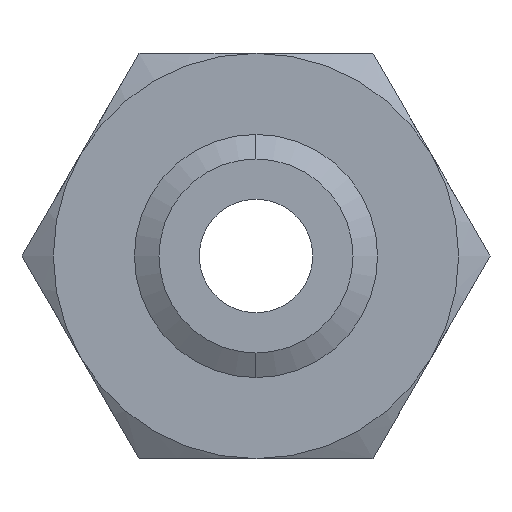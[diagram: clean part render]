
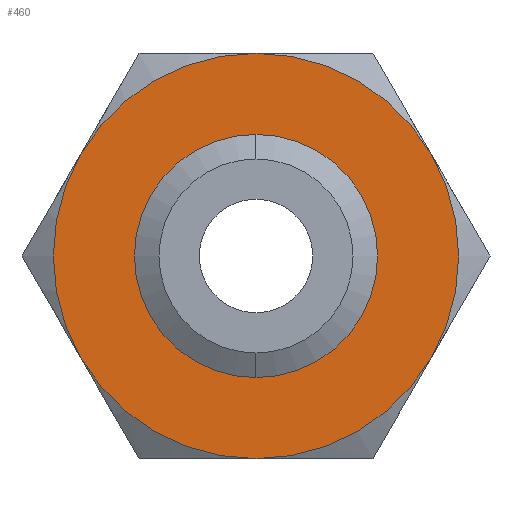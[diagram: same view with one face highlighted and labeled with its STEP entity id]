
A CAD part, front view. The second image highlights one B-rep face of the part: STEP entity #460.
In plain terms, the highlighted planar face has unit normal (0, -1, 0).
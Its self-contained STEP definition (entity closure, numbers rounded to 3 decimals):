
#247 = VERTEX_POINT ( 'NONE', #902 ) ;
#248 = ORIENTED_EDGE ( 'NONE', *, *, #260, .F. ) ;
#249 = EDGE_CURVE ( 'NONE', #247, #448, #900, .T. ) ;
#251 = ORIENTED_EDGE ( 'NONE', *, *, #254, .F. ) ;
#254 = EDGE_CURVE ( 'NONE', #2073, #2076, #955, .T. ) ;
#259 = EDGE_LOOP ( 'NONE', ( #262, #251 ) ) ;
#260 = EDGE_CURVE ( 'NONE', #414, #247, #939, .T. ) ;
#262 = ORIENTED_EDGE ( 'NONE', *, *, #2075, .F. ) ;
#407 = EDGE_CURVE ( 'NONE', #413, #414, #1272, .T. ) ;
#409 = EDGE_LOOP ( 'NONE', ( #411, #463, #437, #427, #453, #248 ) ) ;
#411 = ORIENTED_EDGE ( 'NONE', *, *, #407, .F. ) ;
#413 = VERTEX_POINT ( 'NONE', #1267 ) ;
#414 = VERTEX_POINT ( 'NONE', #1260 ) ;
#415 = VERTEX_POINT ( 'NONE', #1259 ) ;
#427 = ORIENTED_EDGE ( 'NONE', *, *, #665, .F. ) ;
#435 = VERTEX_POINT ( 'NONE', #1311 ) ;
#437 = ORIENTED_EDGE ( 'NONE', *, *, #450, .F. ) ;
#439 = EDGE_CURVE ( 'NONE', #435, #413, #1305, .T. ) ;
#448 = VERTEX_POINT ( 'NONE', #1295 ) ;
#450 = EDGE_CURVE ( 'NONE', #415, #435, #1294, .T. ) ;
#453 = ORIENTED_EDGE ( 'NONE', *, *, #249, .F. ) ;
#460 = ADVANCED_FACE ( 'NONE', ( #1338, #1337 ), #1336, .F. ) ;
#463 = ORIENTED_EDGE ( 'NONE', *, *, #439, .F. ) ;
#665 = EDGE_CURVE ( 'NONE', #448, #415, #1439, .T. ) ;
#896 = DIRECTION ( 'NONE',  ( 0., 0., 1. ) ) ;
#897 = DIRECTION ( 'NONE',  ( 0., 1., 0. ) ) ;
#898 = CARTESIAN_POINT ( 'NONE',  ( 0., 0., 0. ) ) ;
#899 = AXIS2_PLACEMENT_3D ( 'NONE', #898, #897, #896 ) ;
#900 = CIRCLE ( 'NONE', #899, 25. ) ;
#902 = CARTESIAN_POINT ( 'NONE',  ( 21.651, 0., -12.5 ) ) ;
#936 = DIRECTION ( 'NONE',  ( 0., 0., 1. ) ) ;
#937 = DIRECTION ( 'NONE',  ( 0., 1., 0. ) ) ;
#938 = AXIS2_PLACEMENT_3D ( 'NONE', #943, #937, #936 ) ;
#939 = CIRCLE ( 'NONE', #938, 25. ) ;
#943 = CARTESIAN_POINT ( 'NONE',  ( 0., 0., 0. ) ) ;
#948 = DIRECTION ( 'NONE',  ( 0., 0., -1. ) ) ;
#949 = DIRECTION ( 'NONE',  ( 0., -1., 0. ) ) ;
#950 = CARTESIAN_POINT ( 'NONE',  ( 0., 0., 0. ) ) ;
#951 = AXIS2_PLACEMENT_3D ( 'NONE', #950, #949, #948 ) ;
#955 = CIRCLE ( 'NONE', #951, 11.969 ) ;
#1259 = CARTESIAN_POINT ( 'NONE',  ( -21.651, 0., -12.5 ) ) ;
#1260 = CARTESIAN_POINT ( 'NONE',  ( 21.651, 0., 12.5 ) ) ;
#1267 = CARTESIAN_POINT ( 'NONE',  ( 0., 0., 25. ) ) ;
#1268 = DIRECTION ( 'NONE',  ( 0., 0., 1. ) ) ;
#1269 = DIRECTION ( 'NONE',  ( 0., 1., 0. ) ) ;
#1270 = CARTESIAN_POINT ( 'NONE',  ( 0., 0., 0. ) ) ;
#1271 = AXIS2_PLACEMENT_3D ( 'NONE', #1270, #1269, #1268 ) ;
#1272 = CIRCLE ( 'NONE', #1271, 25. ) ;
#1290 = DIRECTION ( 'NONE',  ( 0., 0., 1. ) ) ;
#1291 = DIRECTION ( 'NONE',  ( 0., 1., 0. ) ) ;
#1292 = CARTESIAN_POINT ( 'NONE',  ( 0., 0., 0. ) ) ;
#1293 = AXIS2_PLACEMENT_3D ( 'NONE', #1292, #1291, #1290 ) ;
#1294 = CIRCLE ( 'NONE', #1293, 25. ) ;
#1295 = CARTESIAN_POINT ( 'NONE',  ( 0., 0., -25. ) ) ;
#1301 = DIRECTION ( 'NONE',  ( 0., 0., 1. ) ) ;
#1302 = DIRECTION ( 'NONE',  ( 0., 1., 0. ) ) ;
#1303 = CARTESIAN_POINT ( 'NONE',  ( 0., 0., 0. ) ) ;
#1304 = AXIS2_PLACEMENT_3D ( 'NONE', #1303, #1302, #1301 ) ;
#1305 = CIRCLE ( 'NONE', #1304, 25. ) ;
#1311 = CARTESIAN_POINT ( 'NONE',  ( -21.651, 0., 12.5 ) ) ;
#1330 = DIRECTION ( 'NONE',  ( 0., 0., 1. ) ) ;
#1331 = DIRECTION ( 'NONE',  ( 0., 1., 0. ) ) ;
#1332 = CARTESIAN_POINT ( 'NONE',  ( 14.434, 0., -25. ) ) ;
#1335 = AXIS2_PLACEMENT_3D ( 'NONE', #1332, #1331, #1330 ) ;
#1336 = PLANE ( 'NONE',  #1335 ) ;
#1337 = FACE_BOUND ( 'NONE', #259, .T. ) ;
#1338 = FACE_OUTER_BOUND ( 'NONE', #409, .T. ) ;
#1436 = DIRECTION ( 'NONE',  ( 0., 0., 1. ) ) ;
#1437 = DIRECTION ( 'NONE',  ( 0., 1., 0. ) ) ;
#1438 = AXIS2_PLACEMENT_3D ( 'NONE', #1445, #1437, #1436 ) ;
#1439 = CIRCLE ( 'NONE', #1438, 25. ) ;
#1445 = CARTESIAN_POINT ( 'NONE',  ( 0., 0., 0. ) ) ;
#1761 = CARTESIAN_POINT ( 'NONE',  ( 0., 0., -11.969 ) ) ;
#1762 = DIRECTION ( 'NONE',  ( 0., 0., -1. ) ) ;
#1763 = DIRECTION ( 'NONE',  ( 0., -1., 0. ) ) ;
#1764 = CARTESIAN_POINT ( 'NONE',  ( 0., 0., 0. ) ) ;
#1765 = AXIS2_PLACEMENT_3D ( 'NONE', #1764, #1763, #1762 ) ;
#1766 = CIRCLE ( 'NONE', #1765, 11.969 ) ;
#1770 = CARTESIAN_POINT ( 'NONE',  ( 0., 0., 11.969 ) ) ;
#2073 = VERTEX_POINT ( 'NONE', #1770 ) ;
#2075 = EDGE_CURVE ( 'NONE', #2076, #2073, #1766, .T. ) ;
#2076 = VERTEX_POINT ( 'NONE', #1761 ) ;
